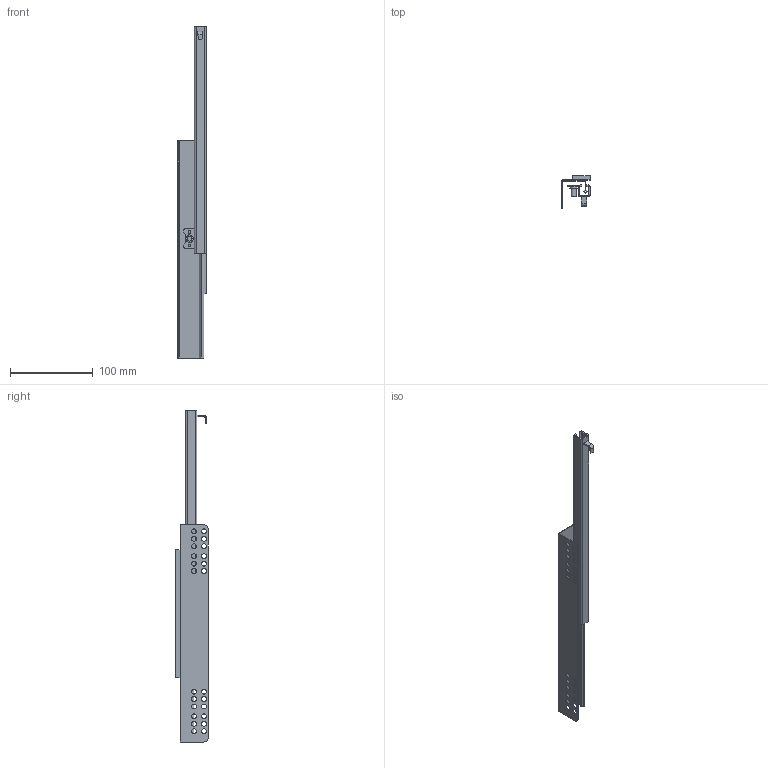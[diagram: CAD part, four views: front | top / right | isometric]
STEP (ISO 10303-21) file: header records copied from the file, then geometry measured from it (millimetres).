
FILE_DESCRIPTION(/* description */ (''),/* implementation_level */ '2;1');
FILE_NAME(/* name */ 'C:\Users\dmitruk\Documents\WORK\НАПРАВЛЯЮЩИЕ\Скрытого монтажаНаправляющая cкрытого насадного монтажа 3-4 Q-Type\Направляющая cкрытого насадного монтажа 3-4 Q-Type_P\Направляющая cкрытого насадного монтажа 3-4 Q-Type-400 L.stp',/* time_stamp */ '2020-07-27T14:54:24+03:00',/* author */ ('dmitruk'),/* organization */ (''),/* preprocessor_version */ 'ST-DEVELOPER v16.5',/* originating_system */ 'Autodesk Inventor 2017',/* authorisation */ '');
FILE_SCHEMA (('AUTOMOTIVE_DESIGN { 1 0 10303 214 3 1 1 }'));
Length unit declared in the file: millimetre
Products named in the file (1): Направляющая c\X2\043A0440
044B0442043E0433043E\X0\ насадного 
монтажа 3-4 Q-Type-400 L
Bounding box: 34 x 39 x 402 mm (x, y, z)
Volume: 55181 mm3; surface area: 72019.1 mm2
Topology: 2 solids, 2 shells, 108 faces, 288 edges, 188 vertices
Faces by surface type: plane 60, cylinder 46, bspline 2
Full cylindrical faces by diameter (mm): 3 x2, 6 x25, 9 x1
Entity records: 3401 total; most frequent: CARTESIAN_POINT 617, DIRECTION 564, ORIENTED_EDGE 518, EDGE_CURVE 259, AXIS2_PLACEMENT_3D 202, EDGE_LOOP 194, VERTEX_POINT 187, LINE 160
